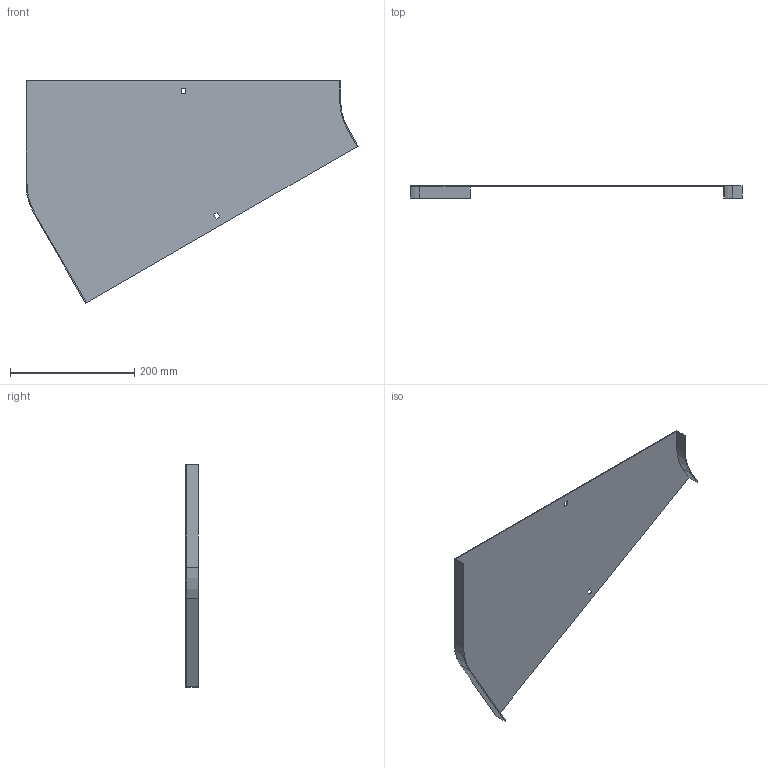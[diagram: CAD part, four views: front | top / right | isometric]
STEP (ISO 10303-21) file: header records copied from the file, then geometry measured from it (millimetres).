
FILE_DESCRIPTION (( 'STEP AP214' ), '1' );
FILE_NAME ('12G1P500.step', '2025-02-21T12:45:34', ( '' ), ( '' ), 'SwSTEP 2.0', 'SolidWorks 2023', '' );
FILE_SCHEMA (( 'AUTOMOTIVE_DESIGN' ));
Length unit declared in the file: millimetre
Products named in the file (1): 12G1P500
Bounding box: 535.2 x 20 x 358.73 mm (x, y, z)
Volume: 202637.9 mm3; surface area: 272651 mm2
Topology: 1 solids, 1 shells, 26 faces, 72 edges, 48 vertices
Faces by surface type: plane 22, cylinder 4
Entity records: 855 total; most frequent: CARTESIAN_POINT 147, ORIENTED_EDGE 144, DIRECTION 134, EDGE_CURVE 72, VECTOR 64, LINE 64, VERTEX_POINT 48, AXIS2_PLACEMENT_3D 35
